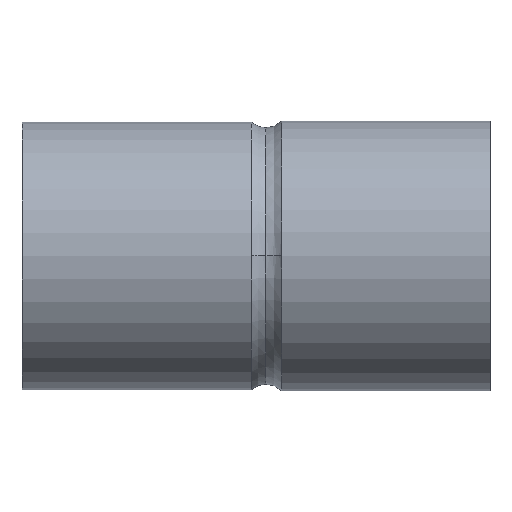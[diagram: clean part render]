
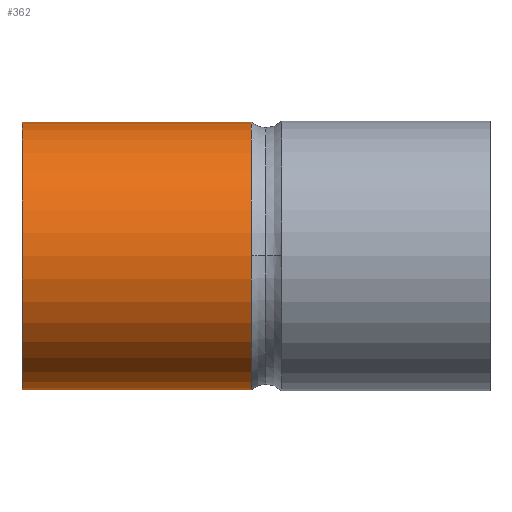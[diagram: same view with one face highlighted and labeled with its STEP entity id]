
A CAD part, top view. The second image highlights one B-rep face of the part: STEP entity #362.
In plain terms, the highlighted cylindrical face has radius 6 mm (diameter 12 mm), a partial arc.
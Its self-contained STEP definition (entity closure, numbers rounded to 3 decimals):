
#312=CARTESIAN_POINT('',(5.145,0.0,0.0));
#313=DIRECTION('',(1.0,0.0,0.0));
#314=DIRECTION('',(0.0,1.0,0.0));
#315=AXIS2_PLACEMENT_3D('',#312,#313,#314);
#316=CYLINDRICAL_SURFACE('',#315,6.);
#317=CARTESIAN_POINT('',(0.,6.,0.0));
#318=VERTEX_POINT('',#317);
#319=CARTESIAN_POINT('',(10.291,6.,0.0));
#320=VERTEX_POINT('',#319);
#321=CARTESIAN_POINT('',(0.,6.,0.0));
#322=DIRECTION('',(1.0,0.0,0.0));
#323=VECTOR('',#322,10.291);
#324=LINE('',#321,#323);
#325=EDGE_CURVE('',#318,#320,#324,.T.);
#326=ORIENTED_EDGE('',*,*,#325,.F.);
#327=CARTESIAN_POINT('',(0.,-6.,0.));
#328=VERTEX_POINT('',#327);
#329=CARTESIAN_POINT('',(0.,0.0,0.0));
#330=DIRECTION('',(1.0,0.0,0.0));
#331=DIRECTION('',(0.0,1.0,0.0));
#332=AXIS2_PLACEMENT_3D('',#329,#330,#331);
#333=CIRCLE('',#332,6.);
#334=EDGE_CURVE('',#318,#328,#333,.T.);
#335=ORIENTED_EDGE('',*,*,#334,.T.);
#336=CARTESIAN_POINT('',(10.291,-6.,0.));
#337=VERTEX_POINT('',#336);
#338=CARTESIAN_POINT('',(10.291,-6.,0.));
#339=DIRECTION('',(-1.0,0.0,0.0));
#340=VECTOR('',#339,10.291);
#341=LINE('',#338,#340);
#342=EDGE_CURVE('',#337,#328,#341,.T.);
#343=ORIENTED_EDGE('',*,*,#342,.F.);
#344=CARTESIAN_POINT('',(10.291,0.,6.));
#345=VERTEX_POINT('',#344);
#346=CARTESIAN_POINT('',(10.291,0.0,0.0));
#347=DIRECTION('',(1.0,0.0,0.0));
#348=DIRECTION('',(0.0,1.0,0.0));
#349=AXIS2_PLACEMENT_3D('',#346,#347,#348);
#350=CIRCLE('',#349,6.);
#351=EDGE_CURVE('',#345,#337,#350,.T.);
#352=ORIENTED_EDGE('',*,*,#351,.F.);
#353=CARTESIAN_POINT('',(10.291,0.0,0.0));
#354=DIRECTION('',(1.0,0.0,0.0));
#355=DIRECTION('',(0.0,1.0,0.0));
#356=AXIS2_PLACEMENT_3D('',#353,#354,#355);
#357=CIRCLE('',#356,6.);
#358=EDGE_CURVE('',#320,#345,#357,.T.);
#359=ORIENTED_EDGE('',*,*,#358,.F.);
#360=EDGE_LOOP('',(#326,#335,#343,#352,#359));
#361=FACE_OUTER_BOUND('',#360,.T.);
#362=ADVANCED_FACE('',(#361),#316,.T.);
